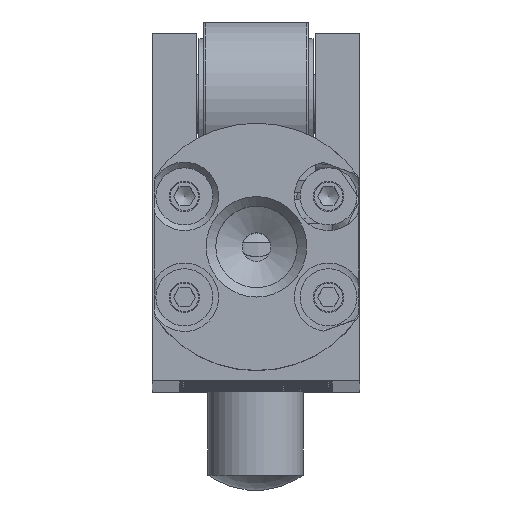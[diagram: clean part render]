
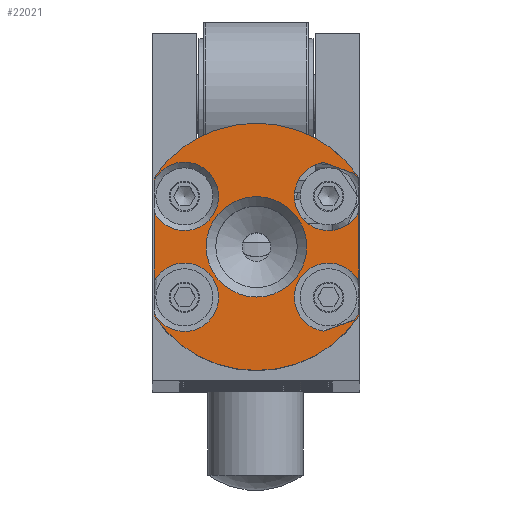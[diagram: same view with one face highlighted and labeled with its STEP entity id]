
A CAD part, top view. The second image highlights one B-rep face of the part: STEP entity #22021.
In plain terms, the highlighted planar face has unit normal (0, 0, 1).
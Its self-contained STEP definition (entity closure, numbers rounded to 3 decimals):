
#745=FACE_BOUND('',#3794,.T.);
#1333=PLANE('',#25074);
#2421=FACE_OUTER_BOUND('',#3793,.T.);
#3793=EDGE_LOOP('',(#19033,#19034,#19035,#19036,#19037,#19038,#19039,#19040,
#19041,#19042,#19043,#19044,#19045,#19046,#19047,#19048));
#3794=EDGE_LOOP('',(#19049));
#4631=LINE('',#41542,#5462);
#4632=LINE('',#41544,#5463);
#4633=LINE('',#41549,#5464);
#4640=LINE('',#41598,#5471);
#4643=LINE('',#41619,#5474);
#4644=LINE('',#41620,#5475);
#4645=LINE('',#41621,#5476);
#4648=LINE('',#41635,#5479);
#5462=VECTOR('',#31915,10.);
#5463=VECTOR('',#31916,10.);
#5464=VECTOR('',#31917,10.);
#5471=VECTOR('',#31956,10.);
#5474=VECTOR('',#31973,10.);
#5475=VECTOR('',#31974,10.);
#5476=VECTOR('',#31975,10.);
#5479=VECTOR('',#31992,10.);
#7406=CIRCLE('',#25035,13.);
#7411=CIRCLE('',#25044,13.);
#7417=CIRCLE('',#25055,5.283);
#7420=CIRCLE('',#25060,3.6);
#7423=CIRCLE('',#25066,3.6);
#7424=CIRCLE('',#25067,3.6);
#7427=CIRCLE('',#25073,3.6);
#7428=CIRCLE('',#25075,3.6);
#7429=CIRCLE('',#25076,3.6);
#9649=VERTEX_POINT('',#41514);
#9650=VERTEX_POINT('',#41516);
#9654=VERTEX_POINT('',#41531);
#9655=VERTEX_POINT('',#41533);
#9656=VERTEX_POINT('',#41537);
#9657=VERTEX_POINT('',#41538);
#9658=VERTEX_POINT('',#41543);
#9659=VERTEX_POINT('',#41545);
#9665=VERTEX_POINT('',#41567);
#9668=VERTEX_POINT('',#41577);
#9670=VERTEX_POINT('',#41582);
#9671=VERTEX_POINT('',#41589);
#9673=VERTEX_POINT('',#41594);
#9676=VERTEX_POINT('',#41610);
#9678=VERTEX_POINT('',#41615);
#9681=VERTEX_POINT('',#41632);
#9682=VERTEX_POINT('',#41634);
#12791=EDGE_CURVE('',#9650,#9649,#7406,.T.);
#12798=EDGE_CURVE('',#9654,#9655,#7411,.T.);
#12801=EDGE_CURVE('',#9650,#9657,#4631,.T.);
#12802=EDGE_CURVE('',#9658,#9655,#4632,.T.);
#12804=EDGE_CURVE('',#9656,#9659,#4633,.T.);
#12813=EDGE_CURVE('',#9665,#9665,#7417,.T.);
#12819=EDGE_CURVE('',#9670,#9668,#7420,.T.);
#12824=EDGE_CURVE('',#9671,#9673,#4640,.T.);
#12828=EDGE_CURVE('',#9673,#9658,#7423,.T.);
#12830=EDGE_CURVE('',#9659,#9671,#7424,.T.);
#12833=EDGE_CURVE('',#9668,#9678,#4643,.T.);
#12834=EDGE_CURVE('',#9654,#9670,#4644,.T.);
#12835=EDGE_CURVE('',#9676,#9649,#4645,.T.);
#12839=EDGE_CURVE('',#9678,#9676,#7427,.T.);
#12841=EDGE_CURVE('',#9657,#9681,#7428,.T.);
#12842=EDGE_CURVE('',#9681,#9682,#4648,.T.);
#12843=EDGE_CURVE('',#9682,#9656,#7429,.T.);
#19033=ORIENTED_EDGE('',*,*,#12841,.T.);
#19034=ORIENTED_EDGE('',*,*,#12842,.T.);
#19035=ORIENTED_EDGE('',*,*,#12843,.T.);
#19036=ORIENTED_EDGE('',*,*,#12804,.T.);
#19037=ORIENTED_EDGE('',*,*,#12830,.T.);
#19038=ORIENTED_EDGE('',*,*,#12824,.T.);
#19039=ORIENTED_EDGE('',*,*,#12828,.T.);
#19040=ORIENTED_EDGE('',*,*,#12802,.T.);
#19041=ORIENTED_EDGE('',*,*,#12798,.F.);
#19042=ORIENTED_EDGE('',*,*,#12834,.T.);
#19043=ORIENTED_EDGE('',*,*,#12819,.T.);
#19044=ORIENTED_EDGE('',*,*,#12833,.T.);
#19045=ORIENTED_EDGE('',*,*,#12839,.T.);
#19046=ORIENTED_EDGE('',*,*,#12835,.T.);
#19047=ORIENTED_EDGE('',*,*,#12791,.F.);
#19048=ORIENTED_EDGE('',*,*,#12801,.T.);
#19049=ORIENTED_EDGE('',*,*,#12813,.F.);
#22021=ADVANCED_FACE('',(#2421,#745),#1333,.T.);
#25035=AXIS2_PLACEMENT_3D('',#41518,#31890,#31891);
#25044=AXIS2_PLACEMENT_3D('',#41534,#31910,#31911);
#25055=AXIS2_PLACEMENT_3D('',#41568,#31939,#31940);
#25060=AXIS2_PLACEMENT_3D('',#41583,#31951,#31952);
#25066=AXIS2_PLACEMENT_3D('',#41606,#31966,#31967);
#25067=AXIS2_PLACEMENT_3D('',#41608,#31969,#31970);
#25073=AXIS2_PLACEMENT_3D('',#41629,#31985,#31986);
#25074=AXIS2_PLACEMENT_3D('',#41631,#31988,#31989);
#25075=AXIS2_PLACEMENT_3D('',#41633,#31990,#31991);
#25076=AXIS2_PLACEMENT_3D('',#41636,#31993,#31994);
#31890=DIRECTION('center_axis',(0.,0.,
-1.));
#31891=DIRECTION('ref_axis',(0.,1.,0.));
#31910=DIRECTION('center_axis',(0.,0.,
-1.));
#31911=DIRECTION('ref_axis',(0.,1.,0.));
#31915=DIRECTION('',(0.,1.,0.));
#31916=DIRECTION('',(0.,1.,0.));
#31917=DIRECTION('',(0.,1.,0.));
#31939=DIRECTION('center_axis',(0.,0.,
1.));
#31940=DIRECTION('ref_axis',(-1.,0.,0.));
#31951=DIRECTION('center_axis',(0.,0.,
-1.));
#31952=DIRECTION('ref_axis',(1.,0.,0.));
#31956=DIRECTION('',(0.94,-0.342,0.));
#31966=DIRECTION('center_axis',(0.,0.,
-1.));
#31967=DIRECTION('ref_axis',(-0.342,-0.94,0.));
#31969=DIRECTION('center_axis',(0.,0.,
-1.));
#31970=DIRECTION('ref_axis',(-0.342,-0.94,0.));
#31973=DIRECTION('',(0.,-1.,0.));
#31974=DIRECTION('',(0.,-1.,0.));
#31975=DIRECTION('',(0.,-1.,0.));
#31985=DIRECTION('center_axis',(0.,0.,
-1.));
#31986=DIRECTION('ref_axis',(1.,0.,0.));
#31988=DIRECTION('center_axis',(0.,0.,
1.));
#31989=DIRECTION('ref_axis',(1.,0.,0.));
#31990=DIRECTION('center_axis',(0.,0.,
-1.));
#31991=DIRECTION('ref_axis',(-0.342,0.94,0.));
#31992=DIRECTION('',(-0.94,-0.342,0.));
#31993=DIRECTION('center_axis',(0.,0.,
-1.));
#31994=DIRECTION('ref_axis',(-0.342,0.94,0.));
#41514=CARTESIAN_POINT('',(-10.7,-11.56,376.));
#41516=CARTESIAN_POINT('',(10.8,-11.56,376.));
#41518=CARTESIAN_POINT('Origin',(0.05,-4.25,376.));
#41531=CARTESIAN_POINT('',(-10.7,3.06,376.));
#41533=CARTESIAN_POINT('',(10.8,3.06,376.));
#41534=CARTESIAN_POINT('Origin',(0.05,-4.25,376.));
#41537=CARTESIAN_POINT('',(10.8,-7.855,376.));
#41538=CARTESIAN_POINT('',(10.8,-11.256,376.));
#41542=CARTESIAN_POINT('',(10.8,-4.655,376.));
#41543=CARTESIAN_POINT('',(10.8,2.756,376.));
#41544=CARTESIAN_POINT('',(10.8,-4.655,376.));
#41545=CARTESIAN_POINT('',(10.8,-0.645,376.));
#41549=CARTESIAN_POINT('',(10.8,-4.655,376.));
#41567=CARTESIAN_POINT('',(5.333,-4.25,376.));
#41568=CARTESIAN_POINT('Origin',(0.05,-4.25,376.));
#41577=CARTESIAN_POINT('',(-10.7,-0.645,376.));
#41582=CARTESIAN_POINT('',(-10.7,2.756,376.));
#41583=CARTESIAN_POINT('Origin',(-7.527,1.056,376.));
#41589=CARTESIAN_POINT('',(7.114,4.619,376.));
#41594=CARTESIAN_POINT('',(10.311,3.455,376.));
#41598=CARTESIAN_POINT('',(6.117,4.982,376.));
#41606=CARTESIAN_POINT('Origin',(7.627,1.056,376.));
#41608=CARTESIAN_POINT('Origin',(7.627,1.056,376.));
#41610=CARTESIAN_POINT('',(-10.7,-11.256,376.));
#41615=CARTESIAN_POINT('',(-10.7,-7.855,376.));
#41619=CARTESIAN_POINT('',(-10.7,2.655,376.));
#41620=CARTESIAN_POINT('',(-10.7,2.655,376.));
#41621=CARTESIAN_POINT('',(-10.7,2.655,376.));
#41629=CARTESIAN_POINT('Origin',(-7.527,-9.556,376.));
#41631=CARTESIAN_POINT('Origin',(0.05,2.25,376.));
#41632=CARTESIAN_POINT('',(10.311,-11.955,376.));
#41633=CARTESIAN_POINT('Origin',(7.627,-9.556,376.));
#41634=CARTESIAN_POINT('',(7.114,-13.119,376.));
#41635=CARTESIAN_POINT('',(8.206,-12.721,376.));
#41636=CARTESIAN_POINT('Origin',(7.627,-9.556,376.));
